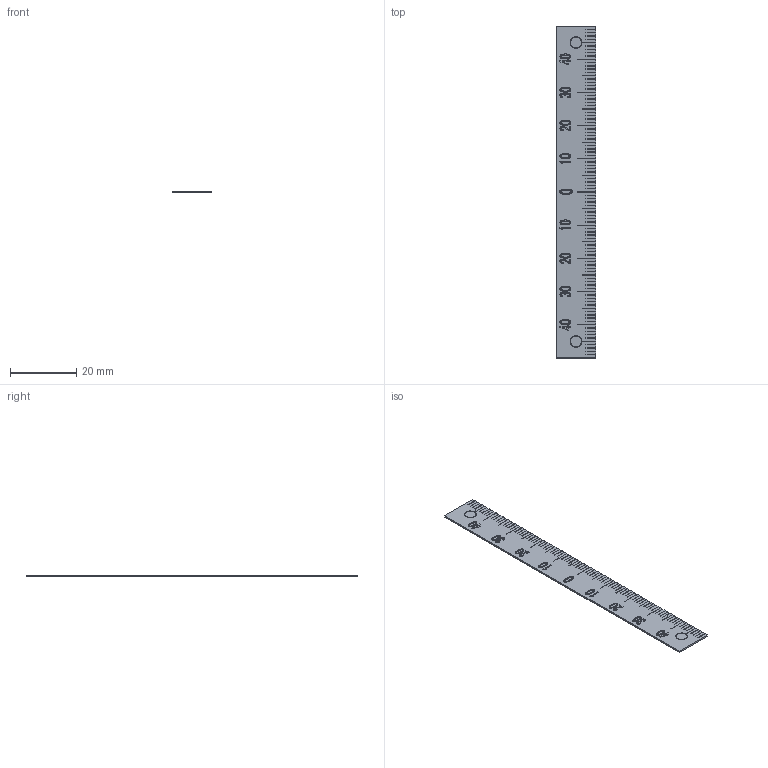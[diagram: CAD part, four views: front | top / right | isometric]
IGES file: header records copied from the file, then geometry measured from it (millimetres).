
Start section: SolidWorks IGES file using analytic representation for surfaces
Global section: file name: Y:\5.更新分\2023年対応\04xx_ALL\E\ES1N-D5050\es1n-d5050.IGS; native system: SolidWorks 2021; preprocessor: SolidWorks 2021; author: ImaoCorp; date: 230615.160507; units: millimetre
Bounding box: 12 x 100 x 0.5 mm (x, y, z)
Surface area: 2521.2 mm2 (no closed solid volume)
Topology: 0 solids, 0 shells, 716 faces, 7206 edges, 7206 vertices
Faces by surface type: bspline 708, revolution 8
